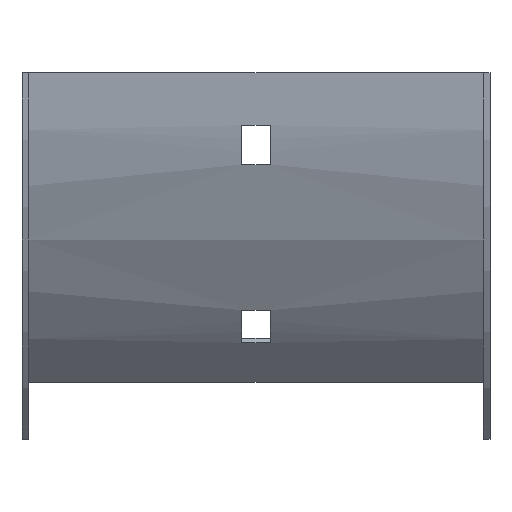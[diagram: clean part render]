
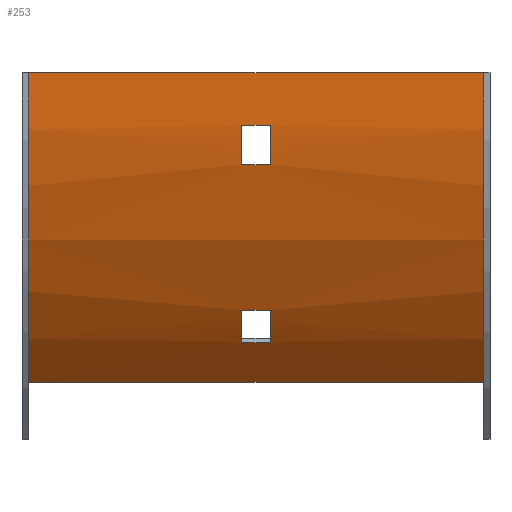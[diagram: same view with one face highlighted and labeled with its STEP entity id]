
A CAD part, front view. The second image highlights one B-rep face of the part: STEP entity #253.
In plain terms, the highlighted cylindrical face has radius 100 mm (diameter 200 mm), a partial arc.
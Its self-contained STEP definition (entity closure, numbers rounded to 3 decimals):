
#6 = ORIENTED_EDGE ( 'NONE', *, *, #419, .T. ) ;
#8 = CIRCLE ( 'NONE', #557, 100. ) ;
#9 = ORIENTED_EDGE ( 'NONE', *, *, #163, .T. ) ;
#20 = DIRECTION ( 'NONE',  ( 0., 0., 1. ) ) ;
#25 = LINE ( 'NONE', #220, #421 ) ;
#36 = DIRECTION ( 'NONE',  ( -1., 0., 0. ) ) ;
#38 = ORIENTED_EDGE ( 'NONE', *, *, #39, .T. ) ;
#39 = EDGE_CURVE ( 'NONE', #246, #69, #595, .T. ) ;
#40 = LINE ( 'NONE', #182, #394 ) ;
#42 = CIRCLE ( 'NONE', #393, 100. ) ;
#59 = LINE ( 'NONE', #578, #184 ) ;
#69 = VERTEX_POINT ( 'NONE', #83 ) ;
#74 = CARTESIAN_POINT ( 'NONE',  ( 3.25, 19.815, -61.714 ) ) ;
#83 = CARTESIAN_POINT ( 'NONE',  ( -52., -1.5, 0. ) ) ;
#91 = EDGE_CURVE ( 'NONE', #121, #440, #320, .T. ) ;
#97 = ORIENTED_EDGE ( 'NONE', *, *, #592, .T. ) ;
#113 = EDGE_CURVE ( 'NONE', #356, #229, #328, .T. ) ;
#121 = VERTEX_POINT ( 'NONE', #602 ) ;
#125 = DIRECTION ( 'NONE',  ( -1., 0., 0. ) ) ;
#127 = CARTESIAN_POINT ( 'NONE',  ( -3.25, 14.517, -54.285 ) ) ;
#151 = DIRECTION ( 'NONE',  ( 0., 0., 1. ) ) ;
#158 = ORIENTED_EDGE ( 'NONE', *, *, #546, .F. ) ;
#159 = VECTOR ( 'NONE', #125, 1000. ) ;
#160 = VECTOR ( 'NONE', #416, 1000. ) ;
#163 = EDGE_CURVE ( 'NONE', #196, #246, #513, .T. ) ;
#182 = CARTESIAN_POINT ( 'NONE',  ( 53.5, 14.517, -54.285 ) ) ;
#184 = VECTOR ( 'NONE', #398, 1000. ) ;
#189 = DIRECTION ( 'NONE',  ( 0., 0., 1. ) ) ;
#196 = VERTEX_POINT ( 'NONE', #218 ) ;
#199 = AXIS2_PLACEMENT_3D ( 'NONE', #585, #203, #20 ) ;
#203 = DIRECTION ( 'NONE',  ( 1., 0., 0. ) ) ;
#205 = EDGE_CURVE ( 'NONE', #232, #121, #59, .T. ) ;
#208 = DIRECTION ( 'NONE',  ( -1., 0., 0. ) ) ;
#211 = EDGE_LOOP ( 'NONE', ( #527, #444, #9, #38 ) ) ;
#218 = CARTESIAN_POINT ( 'NONE',  ( 52., 27.789, -70.711 ) ) ;
#220 = CARTESIAN_POINT ( 'NONE',  ( 52., 27.789, -70.711 ) ) ;
#224 = EDGE_CURVE ( 'NONE', #243, #232, #42, .T. ) ;
#229 = VERTEX_POINT ( 'NONE', #251 ) ;
#232 = VERTEX_POINT ( 'NONE', #452 ) ;
#234 = ORIENTED_EDGE ( 'NONE', *, *, #91, .F. ) ;
#241 = CIRCLE ( 'NONE', #199, 100. ) ;
#243 = VERTEX_POINT ( 'NONE', #303 ) ;
#246 = VERTEX_POINT ( 'NONE', #584 ) ;
#251 = CARTESIAN_POINT ( 'NONE',  ( -3.25, 19.815, -61.714 ) ) ;
#253 = ADVANCED_FACE ( 'NONE', ( #447, #385, #432 ), #260, .T. ) ;
#254 = AXIS2_PLACEMENT_3D ( 'NONE', #331, #413, #599 ) ;
#260 = CYLINDRICAL_SURFACE ( 'NONE', #449, 100. ) ;
#261 = ORIENTED_EDGE ( 'NONE', *, *, #493, .T. ) ;
#266 = CARTESIAN_POINT ( 'NONE',  ( 53.5, -0.777, -12. ) ) ;
#276 = EDGE_CURVE ( 'NONE', #471, #69, #8, .T. ) ;
#280 = DIRECTION ( 'NONE',  ( -1., 0., 0. ) ) ;
#281 = DIRECTION ( 'NONE',  ( -1., 0., 0. ) ) ;
#282 = EDGE_LOOP ( 'NONE', ( #292, #6, #261, #97 ) ) ;
#290 = CARTESIAN_POINT ( 'NONE',  ( 3.25, 14.517, -54.285 ) ) ;
#292 = ORIENTED_EDGE ( 'NONE', *, *, #113, .T. ) ;
#303 = CARTESIAN_POINT ( 'NONE',  ( -3.25, -0.777, -12. ) ) ;
#306 = ORIENTED_EDGE ( 'NONE', *, *, #205, .F. ) ;
#310 = DIRECTION ( 'NONE',  ( 0., 0., 1. ) ) ;
#320 = CIRCLE ( 'NONE', #596, 100. ) ;
#328 = LINE ( 'NONE', #472, #160 ) ;
#331 = CARTESIAN_POINT ( 'NONE',  ( -3.25, 98.5, 0. ) ) ;
#338 = DIRECTION ( 'NONE',  ( 1., 0., 0. ) ) ;
#353 = EDGE_CURVE ( 'NONE', #196, #471, #25, .T. ) ;
#356 = VERTEX_POINT ( 'NONE', #74 ) ;
#361 = VECTOR ( 'NONE', #572, 1000. ) ;
#365 = VERTEX_POINT ( 'NONE', #127 ) ;
#385 = FACE_OUTER_BOUND ( 'NONE', #211, .T. ) ;
#393 = AXIS2_PLACEMENT_3D ( 'NONE', #586, #499, #532 ) ;
#394 = VECTOR ( 'NONE', #338, 1000. ) ;
#398 = DIRECTION ( 'NONE',  ( 1., 0., 0. ) ) ;
#401 = CARTESIAN_POINT ( 'NONE',  ( 3.25, 98.5, 0. ) ) ;
#413 = DIRECTION ( 'NONE',  ( -1., 0., 0. ) ) ;
#416 = DIRECTION ( 'NONE',  ( -1., 0., 0. ) ) ;
#419 = EDGE_CURVE ( 'NONE', #229, #365, #515, .T. ) ;
#421 = VECTOR ( 'NONE', #280, 1000. ) ;
#432 = FACE_BOUND ( 'NONE', #282, .T. ) ;
#433 = AXIS2_PLACEMENT_3D ( 'NONE', #607, #36, #189 ) ;
#440 = VERTEX_POINT ( 'NONE', #553 ) ;
#443 = DIRECTION ( 'NONE',  ( -1., 0., 0. ) ) ;
#444 = ORIENTED_EDGE ( 'NONE', *, *, #353, .F. ) ;
#447 = FACE_BOUND ( 'NONE', #587, .T. ) ;
#449 = AXIS2_PLACEMENT_3D ( 'NONE', #571, #443, #151 ) ;
#451 = LINE ( 'NONE', #266, #361 ) ;
#452 = CARTESIAN_POINT ( 'NONE',  ( -3.25, 0.73, -21. ) ) ;
#464 = DIRECTION ( 'NONE',  ( 0., 0., -1. ) ) ;
#467 = CARTESIAN_POINT ( 'NONE',  ( -52., 27.789, -70.711 ) ) ;
#471 = VERTEX_POINT ( 'NONE', #467 ) ;
#472 = CARTESIAN_POINT ( 'NONE',  ( 53.5, 19.815, -61.714 ) ) ;
#491 = CARTESIAN_POINT ( 'NONE',  ( -52., 98.5, 0. ) ) ;
#493 = EDGE_CURVE ( 'NONE', #365, #522, #40, .T. ) ;
#499 = DIRECTION ( 'NONE',  ( 1., 0., 0. ) ) ;
#513 = CIRCLE ( 'NONE', #433, 100. ) ;
#515 = CIRCLE ( 'NONE', #254, 100. ) ;
#522 = VERTEX_POINT ( 'NONE', #290 ) ;
#527 = ORIENTED_EDGE ( 'NONE', *, *, #276, .F. ) ;
#532 = DIRECTION ( 'NONE',  ( 0., 0., 1. ) ) ;
#546 = EDGE_CURVE ( 'NONE', #440, #243, #451, .T. ) ;
#549 = CARTESIAN_POINT ( 'NONE',  ( 52., -1.5, 0. ) ) ;
#553 = CARTESIAN_POINT ( 'NONE',  ( 3.25, -0.777, -12. ) ) ;
#557 = AXIS2_PLACEMENT_3D ( 'NONE', #491, #208, #310 ) ;
#571 = CARTESIAN_POINT ( 'NONE',  ( 53.5, 98.5, 0. ) ) ;
#572 = DIRECTION ( 'NONE',  ( -1., 0., 0. ) ) ;
#578 = CARTESIAN_POINT ( 'NONE',  ( 53.5, 0.73, -21. ) ) ;
#584 = CARTESIAN_POINT ( 'NONE',  ( 52., -1.5, 0. ) ) ;
#585 = CARTESIAN_POINT ( 'NONE',  ( 3.25, 98.5, 0. ) ) ;
#586 = CARTESIAN_POINT ( 'NONE',  ( -3.25, 98.5, 0. ) ) ;
#587 = EDGE_LOOP ( 'NONE', ( #600, #158, #234, #306 ) ) ;
#592 = EDGE_CURVE ( 'NONE', #522, #356, #241, .T. ) ;
#595 = LINE ( 'NONE', #549, #159 ) ;
#596 = AXIS2_PLACEMENT_3D ( 'NONE', #401, #281, #464 ) ;
#599 = DIRECTION ( 'NONE',  ( 0., 0., -1. ) ) ;
#600 = ORIENTED_EDGE ( 'NONE', *, *, #224, .F. ) ;
#602 = CARTESIAN_POINT ( 'NONE',  ( 3.25, 0.73, -21. ) ) ;
#607 = CARTESIAN_POINT ( 'NONE',  ( 52., 98.5, 0. ) ) ;
